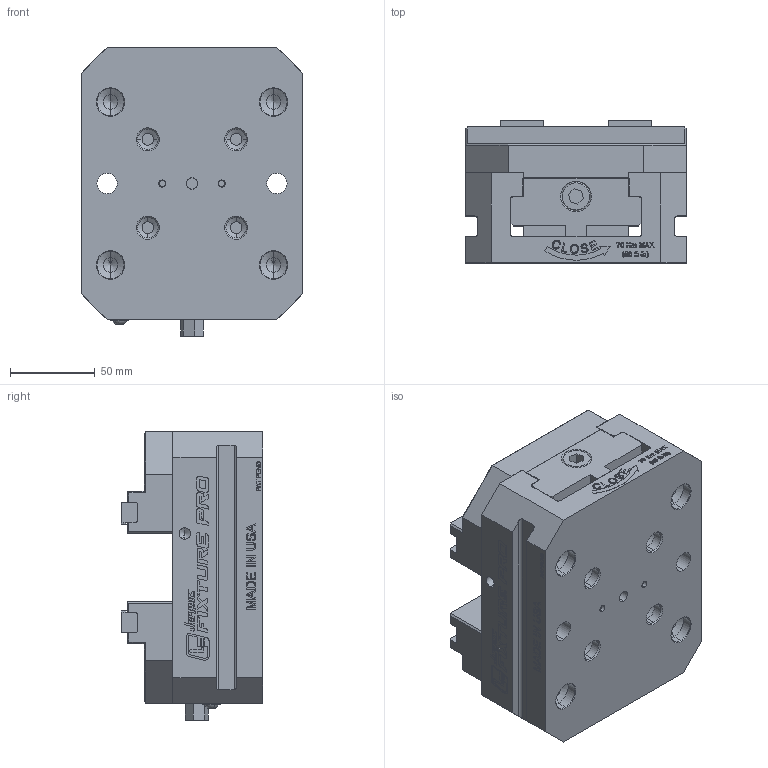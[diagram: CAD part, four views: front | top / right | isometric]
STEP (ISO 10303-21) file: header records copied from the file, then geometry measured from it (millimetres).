
FILE_DESCRIPTION (( 'STEP AP203' ), '1' );
FILE_NAME ('05-0400.STEP', '2021-07-19T17:17:00', ( '' ), ( '' ), 'SwSTEP 2.0', 'SolidWorks 2020', '' );
FILE_SCHEMA (( 'CONFIG_CONTROL_DESIGN' ));
Products named in the file (1): 05-0400
Bounding box: 130 x 83.56 x 170 mm (x, y, z)
Volume: 1082450.4 mm3; surface area: 203919.3 mm2
Topology: 15 solids, 15 shells, 4569 faces, 10779 edges, 6442 vertices
Faces by surface type: plane 3587, cylinder 452, bspline 328, cone 180, torus 20, sphere 2
Entity records: 144480 total; most frequent: CARTESIAN_POINT 42180, ORIENTED_EDGE 21498, DIRECTION 19662, EDGE_CURVE 10749, VECTOR 8932, LINE 8932, VERTEX_POINT 6442, AXIS2_PLACEMENT_3D 5365
